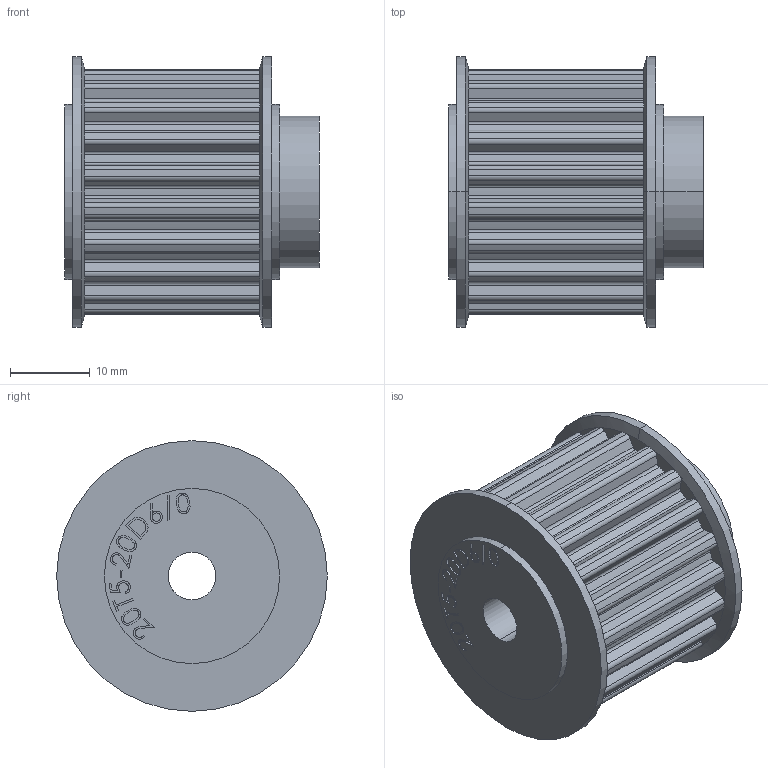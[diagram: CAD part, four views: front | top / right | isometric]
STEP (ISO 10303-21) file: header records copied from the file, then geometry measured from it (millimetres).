
FILE_DESCRIPTION (( 'STEP AP214' ), '1' );
FILE_NAME ('3.2059 Hammashihnapyörä 20T5_20D6_0.STEP', '2026-02-09T07:02:39', ( '' ), ( '' ), 'SwSTEP 2.0', 'SolidWorks 2025', '' );
FILE_SCHEMA (( 'AUTOMOTIVE_DESIGN' ));
Length unit declared in the file: millimetre
Products named in the file (1): 3.2059 Hammashihnapyörä 20T5_20D6_0
Bounding box: 32 x 34 x 34 mm (x, y, z)
Volume: 18570.3 mm3; surface area: 6694.3 mm2
Topology: 1 solids, 1 shells, 397 faces, 1043 edges, 666 vertices
Faces by surface type: cylinder 173, plane 148, bspline 72, cone 4
Entity records: 21077 total; most frequent: CARTESIAN_POINT 11776, ORIENTED_EDGE 2086, DIRECTION 1764, EDGE_CURVE 1043, VERTEX_POINT 666, AXIS2_PLACEMENT_3D 637, LINE 490, VECTOR 490
